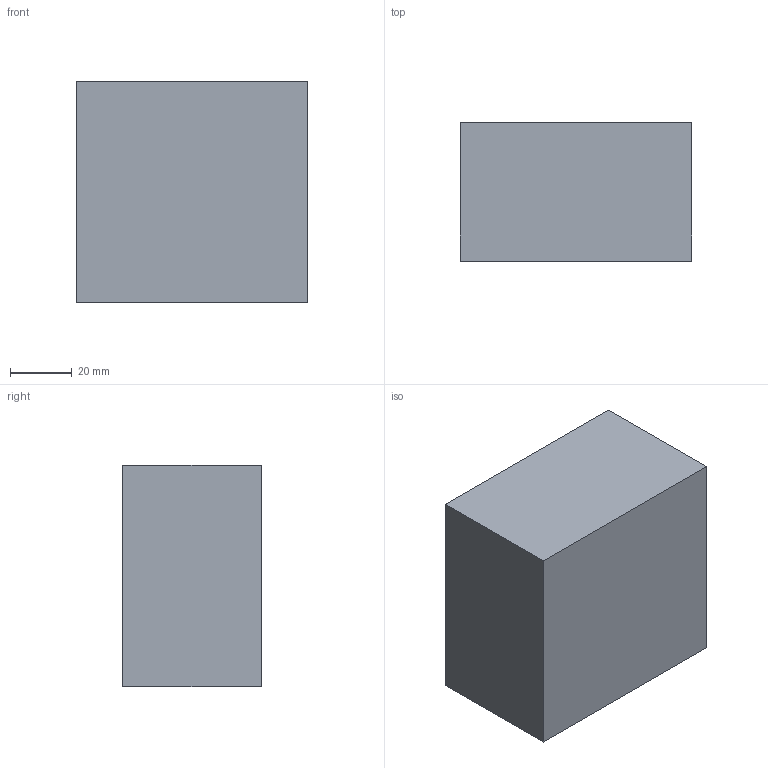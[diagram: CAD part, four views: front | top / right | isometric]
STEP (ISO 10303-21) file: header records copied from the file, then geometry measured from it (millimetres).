
FILE_DESCRIPTION(('FreeCAD Model'),'2;1');
FILE_NAME('Open CASCADE Shape Model','2026-10-22T12:49:28',('FreeCAD'),( 'FreeCAD'),'Open CASCADE STEP processor 8.0','FreeCAD','Unknown');
FILE_SCHEMA(('AUTOMOTIVE_DESIGN { 1 0 10303 214 1 1 1 1 }'));
Length unit declared in the file: millimetre
Products named in the file (1): Open CASCADE STEP translator 8.0 6
Bounding box: 75 x 45 x 72 mm (x, y, z)
Volume: 243000 mm3; surface area: 24030 mm2
Topology: 1 solids, 1 shells, 6 faces, 12 edges, 8 vertices
Faces by surface type: plane 6
Entity records: 166 total; most frequent: CARTESIAN_POINT 27, DIRECTION 26, ORIENTED_EDGE 24, EDGE_CURVE 12, LINE 12, VECTOR 12, VERTEX_POINT 8, AXIS2_PLACEMENT_3D 7
